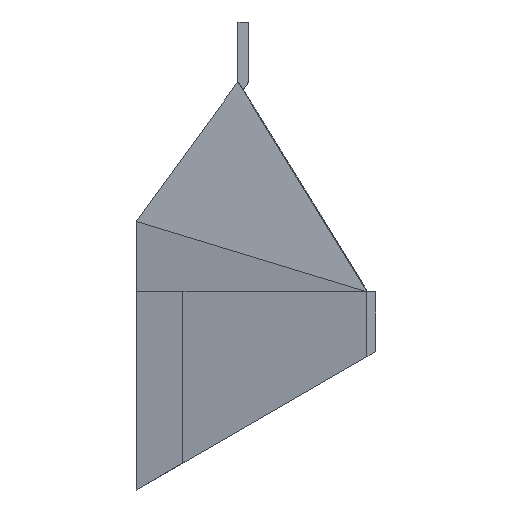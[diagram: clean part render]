
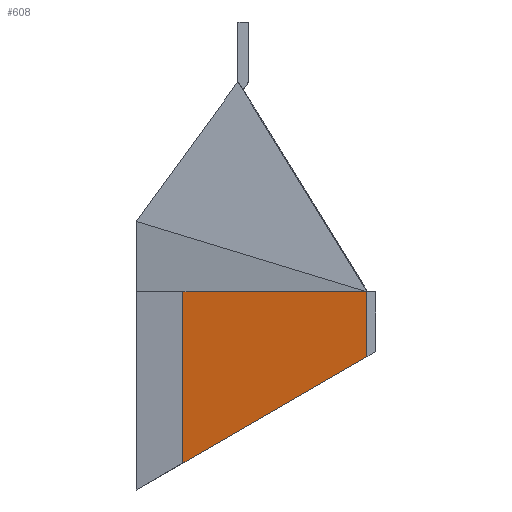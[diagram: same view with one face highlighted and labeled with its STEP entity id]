
A CAD part, left-side view. The second image highlights one B-rep face of the part: STEP entity #608.
In plain terms, the highlighted planar face has unit normal (-0.979, 0.204, 0).
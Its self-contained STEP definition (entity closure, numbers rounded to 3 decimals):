
#31 = LINE ( 'NONE', #815, #119 ) ;
#38 = VERTEX_POINT ( 'NONE', #994 ) ;
#48 = CARTESIAN_POINT ( 'NONE',  ( -119., -18.5, -40. ) ) ;
#119 = VECTOR ( 'NONE', #629, 1000. ) ;
#297 = ORIENTED_EDGE ( 'NONE', *, *, #1186, .T. ) ;
#398 = FACE_OUTER_BOUND ( 'NONE', #536, .T. ) ;
#414 = VERTEX_POINT ( 'NONE', #462 ) ;
#462 = CARTESIAN_POINT ( 'NONE',  ( -112.604, 12.183, 0. ) ) ;
#536 = EDGE_LOOP ( 'NONE', ( #1474, #297, #574, #1081 ) ) ;
#563 = CARTESIAN_POINT ( 'NONE',  ( -119., -18.5, 0. ) ) ;
#574 = ORIENTED_EDGE ( 'NONE', *, *, #708, .T. ) ;
#608 = ADVANCED_FACE ( 'NONE', ( #398 ), #1714, .T. ) ;
#624 = LINE ( 'NONE', #1293, #1913 ) ;
#629 = DIRECTION ( 'NONE',  ( -0.178, -0.852, 0.492 ) ) ;
#698 = DIRECTION ( 'NONE',  ( 0.204, 0.979, 0. ) ) ;
#708 = EDGE_CURVE ( 'NONE', #1772, #414, #1521, .T. ) ;
#815 = CARTESIAN_POINT ( 'NONE',  ( -116.453, -6.283, -17.92 ) ) ;
#918 = EDGE_CURVE ( 'NONE', #38, #1241, #31, .T. ) ;
#994 = CARTESIAN_POINT ( 'NONE',  ( -112.604, 12.183, -28.581 ) ) ;
#998 = CARTESIAN_POINT ( 'NONE',  ( -112.604, 12.183, -40. ) ) ;
#1068 = AXIS2_PLACEMENT_3D ( 'NONE', #48, #2026, #1706 ) ;
#1081 = ORIENTED_EDGE ( 'NONE', *, *, #1211, .F. ) ;
#1133 = CARTESIAN_POINT ( 'NONE',  ( -119., -18.5, -10.866 ) ) ;
#1186 = EDGE_CURVE ( 'NONE', #1241, #1772, #624, .T. ) ;
#1211 = EDGE_CURVE ( 'NONE', #38, #414, #1496, .T. ) ;
#1233 = CARTESIAN_POINT ( 'NONE',  ( -119., -18.5, 0. ) ) ;
#1241 = VERTEX_POINT ( 'NONE', #1133 ) ;
#1293 = CARTESIAN_POINT ( 'NONE',  ( -119., -18.5, -40. ) ) ;
#1425 = VECTOR ( 'NONE', #1659, 1000. ) ;
#1448 = DIRECTION ( 'NONE',  ( 0., 0., 1. ) ) ;
#1474 = ORIENTED_EDGE ( 'NONE', *, *, #918, .T. ) ;
#1496 = LINE ( 'NONE', #998, #1425 ) ;
#1521 = LINE ( 'NONE', #1233, #2081 ) ;
#1659 = DIRECTION ( 'NONE',  ( 0., 0., 1. ) ) ;
#1706 = DIRECTION ( 'NONE',  ( 0.204, 0.979, 0. ) ) ;
#1714 = PLANE ( 'NONE',  #1068 ) ;
#1772 = VERTEX_POINT ( 'NONE', #563 ) ;
#1913 = VECTOR ( 'NONE', #1448, 1000. ) ;
#2026 = DIRECTION ( 'NONE',  ( -0.979, 0.204, 0. ) ) ;
#2081 = VECTOR ( 'NONE', #698, 1000. ) ;
